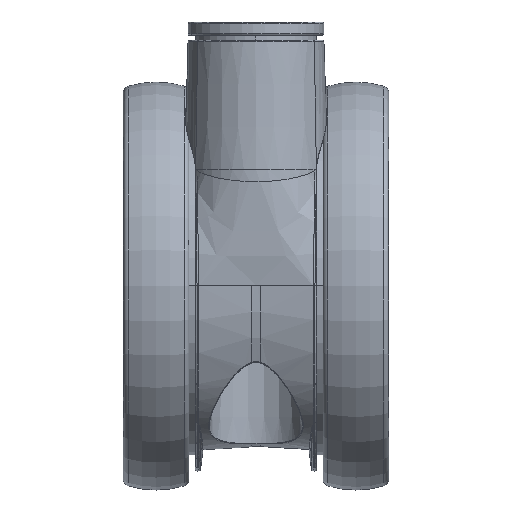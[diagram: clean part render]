
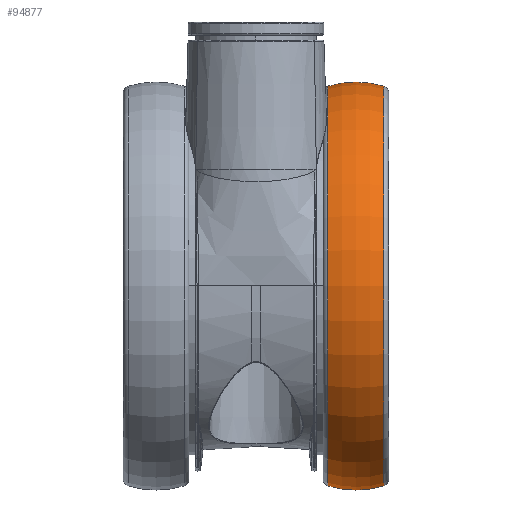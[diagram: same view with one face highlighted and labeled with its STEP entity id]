
A CAD part, top view. The second image highlights one B-rep face of the part: STEP entity #94877.
In plain terms, the highlighted toroidal (fillet/blend) face has major radius 32.25 mm and minor radius 30 mm.
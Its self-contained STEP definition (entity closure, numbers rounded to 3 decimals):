
#197 = VERTEX_POINT ( 'NONE', #171207 ) ;
#8078 = EDGE_LOOP ( 'NONE', ( #153040, #100011, #50373, #96307 ) ) ;
#8890 = EDGE_CURVE ( 'NONE', #44228, #39204, #197192, .T. ) ;
#16754 = AXIS2_PLACEMENT_3D ( 'NONE', #72649, #121698, #137785 ) ;
#20254 = CARTESIAN_POINT ( 'NONE',  ( 39.071, -1.501, -40. ) ) ;
#27570 = AXIS2_PLACEMENT_3D ( 'NONE', #80736, #68747, #181014 ) ;
#39204 = VERTEX_POINT ( 'NONE', #138133 ) ;
#44228 = VERTEX_POINT ( 'NONE', #201122 ) ;
#46048 = CIRCLE ( 'NONE', #16754, 30. ) ;
#50373 = ORIENTED_EDGE ( 'NONE', *, *, #8890, .F. ) ;
#57841 = CARTESIAN_POINT ( 'NONE',  ( 30.5, -94.75, -40. ) ) ;
#65688 = CIRCLE ( 'NONE', #192876, 30. ) ;
#66008 = AXIS2_PLACEMENT_3D ( 'NONE', #120972, #88767, #104891 ) ;
#68747 = DIRECTION ( 'NONE',  ( -1., 0., 0. ) ) ;
#72649 = CARTESIAN_POINT ( 'NONE',  ( 30.5, -30.25, -40. ) ) ;
#75965 = DIRECTION ( 'NONE',  ( 0., 0., -1. ) ) ;
#78305 = DIRECTION ( 'NONE',  ( -1., 0., 0. ) ) ;
#80736 = CARTESIAN_POINT ( 'NONE',  ( 30.5, -62.5, -40. ) ) ;
#85925 = VERTEX_POINT ( 'NONE', #20254 ) ;
#88767 = DIRECTION ( 'NONE',  ( -1., 0., 0. ) ) ;
#94877 = ADVANCED_FACE ( 'NONE', ( #113935 ), #189323, .T. ) ;
#96307 = ORIENTED_EDGE ( 'NONE', *, *, #196007, .F. ) ;
#100011 = ORIENTED_EDGE ( 'NONE', *, *, #110011, .T. ) ;
#104891 = DIRECTION ( 'NONE',  ( 0., -1., 0. ) ) ;
#109163 = DIRECTION ( 'NONE',  ( 0., -1., 0. ) ) ;
#110011 = EDGE_CURVE ( 'NONE', #85925, #39204, #46048, .T. ) ;
#113935 = FACE_OUTER_BOUND ( 'NONE', #8078, .T. ) ;
#115475 = AXIS2_PLACEMENT_3D ( 'NONE', #173104, #78305, #109163 ) ;
#120972 = CARTESIAN_POINT ( 'NONE',  ( 21.929, -62.5, -40. ) ) ;
#121698 = DIRECTION ( 'NONE',  ( 0., 0., 1. ) ) ;
#137785 = DIRECTION ( 'NONE',  ( 1., 0., 0. ) ) ;
#138133 = CARTESIAN_POINT ( 'NONE',  ( 21.929, -1.501, -40. ) ) ;
#153040 = ORIENTED_EDGE ( 'NONE', *, *, #153842, .T. ) ;
#153133 = DIRECTION ( 'NONE',  ( -1., 0., 0. ) ) ;
#153842 = EDGE_CURVE ( 'NONE', #197, #85925, #170538, .T. ) ;
#170538 = CIRCLE ( 'NONE', #115475, 60.999 ) ;
#171207 = CARTESIAN_POINT ( 'NONE',  ( 39.071, -123.499, -40. ) ) ;
#173104 = CARTESIAN_POINT ( 'NONE',  ( 39.071, -62.5, -40. ) ) ;
#181014 = DIRECTION ( 'NONE',  ( 0., -1., 0. ) ) ;
#189323 = TOROIDAL_SURFACE ( 'NONE', #27570, 32.25, 30. ) ;
#192876 = AXIS2_PLACEMENT_3D ( 'NONE', #57841, #75965, #153133 ) ;
#196007 = EDGE_CURVE ( 'NONE', #197, #44228, #65688, .T. ) ;
#197192 = CIRCLE ( 'NONE', #66008, 60.999 ) ;
#201122 = CARTESIAN_POINT ( 'NONE',  ( 21.929, -123.499, -40. ) ) ;
